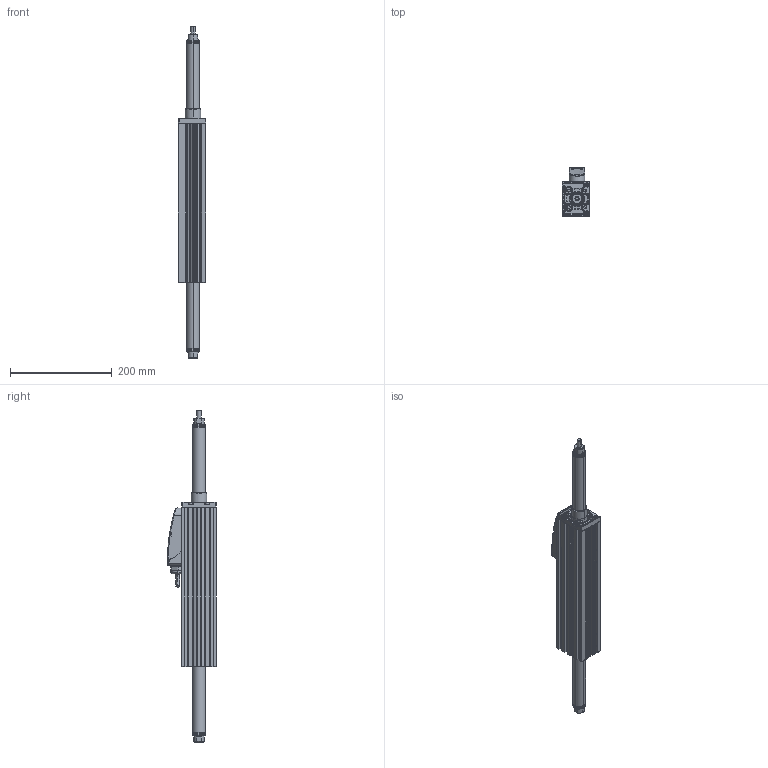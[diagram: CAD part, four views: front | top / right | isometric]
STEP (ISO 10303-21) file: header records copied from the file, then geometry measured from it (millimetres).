
FILE_DESCRIPTION (( 'STEP AP203' ), '1' );
FILE_NAME ('STA2510-258.STEP', '2011-10-13T14:22:07', ( 'showsden' ), ( '' ), 'SwSTEP 2.0', 'SolidWorks 2011', '' );
FILE_SCHEMA (( 'CONFIG_CONTROL_DESIGN' ));
Length unit declared in the file: millimetre
Products named in the file (14): ST25 POD (DLS)_ST25 POD (SOLID); Screw, Cap Head, M2.5_Screw, Cap Head, M2.5 x 6; Screw, Button Head, M3_Screw, Button Head, M3 x 10; STA2510-258; TRA25 Thrust Rod - Solid_TRA2510 (258); Screw, Cap Head, M4_Screw, Cap Head, M4 x 16; STA25 Bearing End Support - Solid_MP02261; STA25 MOTOR HOUSING (REV-B)_STA2510; ST25 POD ASSEMBLY (DLS)_ST25 POD ASSEMBLY (SOLID); MP02254-D ST25 Pod Base Gasket_MP02254; ST25 CABLE ASSEMBLY (REV2)_MA02197 (FLEXING); POWER CABLE_FLEXING (POWER); SIGNAL CABLE_FLEXING (SIGNAL); PG16 Gland Nut (REV2)_PG16 (REV 2)
Assembly tree (20 placements, depth 4):
  STA2510-258
    TRA25 Thrust Rod - Solid_TRA2510 (258)
    Screw, Cap Head, M4_Screw, Cap Head, M4 x 16  x4
    ST25 POD ASSEMBLY (DLS)_ST25 POD ASSEMBLY (SOLID)
      Screw, Button Head, M3_Screw, Button Head, M3 x 10  x4
      ST25 CABLE ASSEMBLY (REV2)_MA02197 (FLEXING)
        PG16 Gland Nut (REV2)_PG16 (REV 2)
        SIGNAL CABLE_FLEXING (SIGNAL)
        POWER CABLE_FLEXING (POWER)
      Screw, Cap Head, M2.5_Screw, Cap Head, M2.5 x 6  x2
      MP02254-D ST25 Pod Base Gasket_MP02254
      ST25 POD (DLS)_ST25 POD (SOLID)
    STA25 Bearing End Support - Solid_MP02261
    STA25 MOTOR HOUSING (REV-B)_STA2510
Bounding box: 54 x 95.5 x 651 mm (x, y, z)
Volume: 1206845.1 mm3; surface area: 284979.8 mm2
Topology: 18 solids, 18 shells, 1636 faces, 4226 edges, 2687 vertices
Faces by surface type: plane 567, cylinder 516, bspline 365, cone 116, torus 56, sphere 16
Entity records: 75343 total; most frequent: CARTESIAN_POINT 39247, ORIENTED_EDGE 7888, DIRECTION 6221, EDGE_CURVE 3944, VERTEX_POINT 2531, AXIS2_PLACEMENT_3D 2326, EDGE_LOOP 1659, LINE 1569
